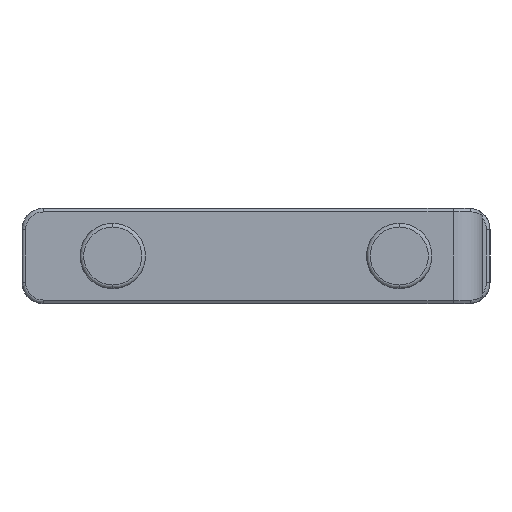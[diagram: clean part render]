
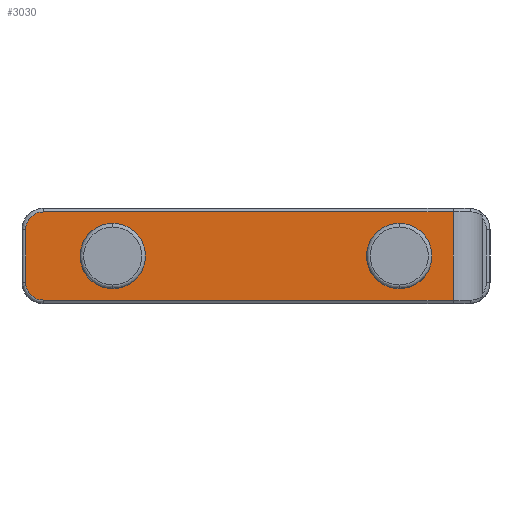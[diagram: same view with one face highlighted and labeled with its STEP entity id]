
A CAD part, left-side view. The second image highlights one B-rep face of the part: STEP entity #3030.
In plain terms, the highlighted planar face has unit normal (-1, 0, 0).
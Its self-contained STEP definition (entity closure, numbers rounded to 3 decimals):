
#599 = EDGE_CURVE ( 'NONE', #613, #600, #1709, .T. ) ;
#600 = VERTEX_POINT ( 'NONE', #1705 ) ;
#613 = VERTEX_POINT ( 'NONE', #1689 ) ;
#673 = EDGE_CURVE ( 'NONE', #600, #613, #1820, .T. ) ;
#674 = EDGE_CURVE ( 'NONE', #751, #675, #1815, .T. ) ;
#675 = VERTEX_POINT ( 'NONE', #1810 ) ;
#677 = EDGE_LOOP ( 'NONE', ( #680, #694 ) ) ;
#680 = ORIENTED_EDGE ( 'NONE', *, *, #673, .F. ) ;
#681 = EDGE_CURVE ( 'NONE', #933, #3142, #1857, .T. ) ;
#683 = ORIENTED_EDGE ( 'NONE', *, *, #684, .T. ) ;
#684 = EDGE_CURVE ( 'NONE', #675, #3106, #1852, .T. ) ;
#694 = ORIENTED_EDGE ( 'NONE', *, *, #599, .F. ) ;
#751 = VERTEX_POINT ( 'NONE', #1951 ) ;
#752 = EDGE_CURVE ( 'NONE', #3117, #751, #1950, .T. ) ;
#753 = ORIENTED_EDGE ( 'NONE', *, *, #674, .T. ) ;
#933 = VERTEX_POINT ( 'NONE', #2437 ) ;
#1650 = CARTESIAN_POINT ( 'NONE',  ( -258.2, -19.5, 0. ) ) ;
#1689 = CARTESIAN_POINT ( 'NONE',  ( -258.2, -19.5, 4.45 ) ) ;
#1705 = CARTESIAN_POINT ( 'NONE',  ( -258.2, -19.5, -4.45 ) ) ;
#1706 = DIRECTION ( 'NONE',  ( 0., 0., -1. ) ) ;
#1707 = DIRECTION ( 'NONE',  ( -1., 0., 0. ) ) ;
#1708 = AXIS2_PLACEMENT_3D ( 'NONE', #1650, #1707, #1706 ) ;
#1709 = CIRCLE ( 'NONE', #1708, 4.45 ) ;
#1810 = CARTESIAN_POINT ( 'NONE',  ( -258.2, 28.95, -6. ) ) ;
#1811 = DIRECTION ( 'NONE',  ( 0., 0., -1. ) ) ;
#1812 = DIRECTION ( 'NONE',  ( -1., 0., 0. ) ) ;
#1813 = CARTESIAN_POINT ( 'NONE',  ( -258.2, 28.95, -3.6 ) ) ;
#1814 = AXIS2_PLACEMENT_3D ( 'NONE', #1813, #1812, #1811 ) ;
#1815 = CIRCLE ( 'NONE', #1814, 2.4 ) ;
#1816 = DIRECTION ( 'NONE',  ( 0., 0., -1. ) ) ;
#1817 = DIRECTION ( 'NONE',  ( -1., 0., 0. ) ) ;
#1818 = CARTESIAN_POINT ( 'NONE',  ( -258.2, -19.5, 0. ) ) ;
#1819 = AXIS2_PLACEMENT_3D ( 'NONE', #1818, #1817, #1816 ) ;
#1820 = CIRCLE ( 'NONE', #1819, 4.45 ) ;
#1849 = DIRECTION ( 'NONE',  ( 0., -1., 0. ) ) ;
#1850 = VECTOR ( 'NONE', #1849, 1000. ) ;
#1851 = CARTESIAN_POINT ( 'NONE',  ( -258.2, -26.82, -6. ) ) ;
#1852 = LINE ( 'NONE', #1851, #1850 ) ;
#1853 = DIRECTION ( 'NONE',  ( 0., 0., -1. ) ) ;
#1854 = DIRECTION ( 'NONE',  ( -1., 0., 0. ) ) ;
#1855 = CARTESIAN_POINT ( 'NONE',  ( -258.2, 19.5, 0. ) ) ;
#1856 = AXIS2_PLACEMENT_3D ( 'NONE', #1855, #1854, #1853 ) ;
#1857 = CIRCLE ( 'NONE', #1856, 4.45 ) ;
#1947 = DIRECTION ( 'NONE',  ( 0., 0., -1. ) ) ;
#1948 = VECTOR ( 'NONE', #1947, 1000. ) ;
#1949 = CARTESIAN_POINT ( 'NONE',  ( -258.2, 31.35, -3.6 ) ) ;
#1950 = LINE ( 'NONE', #1949, #1948 ) ;
#1951 = CARTESIAN_POINT ( 'NONE',  ( -258.2, 31.35, -3.6 ) ) ;
#2437 = CARTESIAN_POINT ( 'NONE',  ( -258.2, 19.5, 4.45 ) ) ;
#2478 = FACE_BOUND ( 'NONE', #677, .T. ) ;
#2479 = FACE_OUTER_BOUND ( 'NONE', #3060, .T. ) ;
#2480 = FACE_BOUND ( 'NONE', #3045, .T. ) ;
#2529 = DIRECTION ( 'NONE',  ( 0., 0., -1. ) ) ;
#2530 = VECTOR ( 'NONE', #2529, 1000. ) ;
#2531 = CARTESIAN_POINT ( 'NONE',  ( -258.2, -26.82, -7.5 ) ) ;
#2532 = LINE ( 'NONE', #2531, #2530 ) ;
#2538 = DIRECTION ( 'NONE',  ( 0., 0., -1. ) ) ;
#2539 = DIRECTION ( 'NONE',  ( 1., 0., 0. ) ) ;
#2540 = CARTESIAN_POINT ( 'NONE',  ( -258.2, -27.9, -2.9 ) ) ;
#2541 = AXIS2_PLACEMENT_3D ( 'NONE', #2540, #2539, #2538 ) ;
#2542 = PLANE ( 'NONE',  #2541 ) ;
#2565 = CARTESIAN_POINT ( 'NONE',  ( -258.2, -26.82, 6. ) ) ;
#2628 = DIRECTION ( 'NONE',  ( 0., 0., -1. ) ) ;
#2629 = DIRECTION ( 'NONE',  ( -1., 0., 0. ) ) ;
#2630 = CARTESIAN_POINT ( 'NONE',  ( -258.2, 19.5, 0. ) ) ;
#2631 = AXIS2_PLACEMENT_3D ( 'NONE', #2630, #2629, #2628 ) ;
#2632 = CIRCLE ( 'NONE', #2631, 4.45 ) ;
#2643 = DIRECTION ( 'NONE',  ( 0., 1., 0. ) ) ;
#2644 = VECTOR ( 'NONE', #2643, 1000. ) ;
#2645 = CARTESIAN_POINT ( 'NONE',  ( -258.2, 28.95, 6. ) ) ;
#2646 = LINE ( 'NONE', #2645, #2644 ) ;
#2647 = CARTESIAN_POINT ( 'NONE',  ( -258.2, 31.35, 3.6 ) ) ;
#2648 = CARTESIAN_POINT ( 'NONE',  ( -258.2, -26.82, -6. ) ) ;
#2654 = DIRECTION ( 'NONE',  ( 0., 0., -1. ) ) ;
#2655 = DIRECTION ( 'NONE',  ( -1., 0., 0. ) ) ;
#2656 = CARTESIAN_POINT ( 'NONE',  ( -258.2, 28.95, 3.6 ) ) ;
#2657 = AXIS2_PLACEMENT_3D ( 'NONE', #2656, #2655, #2654 ) ;
#2661 = CIRCLE ( 'NONE', #2657, 2.4 ) ;
#2665 = CARTESIAN_POINT ( 'NONE',  ( -258.2, 28.95, 6. ) ) ;
#2719 = CARTESIAN_POINT ( 'NONE',  ( -258.2, 19.5, -4.45 ) ) ;
#3021 = ORIENTED_EDGE ( 'NONE', *, *, #681, .F. ) ;
#3029 = ORIENTED_EDGE ( 'NONE', *, *, #3073, .F. ) ;
#3030 = ADVANCED_FACE ( 'NONE', ( #2480, #2479, #2478 ), #2542, .F. ) ;
#3033 = EDGE_CURVE ( 'NONE', #3046, #3106, #2532, .T. ) ;
#3045 = EDGE_LOOP ( 'NONE', ( #3029, #3021 ) ) ;
#3046 = VERTEX_POINT ( 'NONE', #2565 ) ;
#3055 = ORIENTED_EDGE ( 'NONE', *, *, #3119, .T. ) ;
#3060 = EDGE_LOOP ( 'NONE', ( #3104, #3055, #3098, #3118, #753, #683 ) ) ;
#3073 = EDGE_CURVE ( 'NONE', #3142, #933, #2632, .T. ) ;
#3096 = VERTEX_POINT ( 'NONE', #2665 ) ;
#3098 = ORIENTED_EDGE ( 'NONE', *, *, #3101, .T. ) ;
#3101 = EDGE_CURVE ( 'NONE', #3096, #3117, #2661, .T. ) ;
#3104 = ORIENTED_EDGE ( 'NONE', *, *, #3033, .F. ) ;
#3106 = VERTEX_POINT ( 'NONE', #2648 ) ;
#3117 = VERTEX_POINT ( 'NONE', #2647 ) ;
#3118 = ORIENTED_EDGE ( 'NONE', *, *, #752, .T. ) ;
#3119 = EDGE_CURVE ( 'NONE', #3046, #3096, #2646, .T. ) ;
#3142 = VERTEX_POINT ( 'NONE', #2719 ) ;
